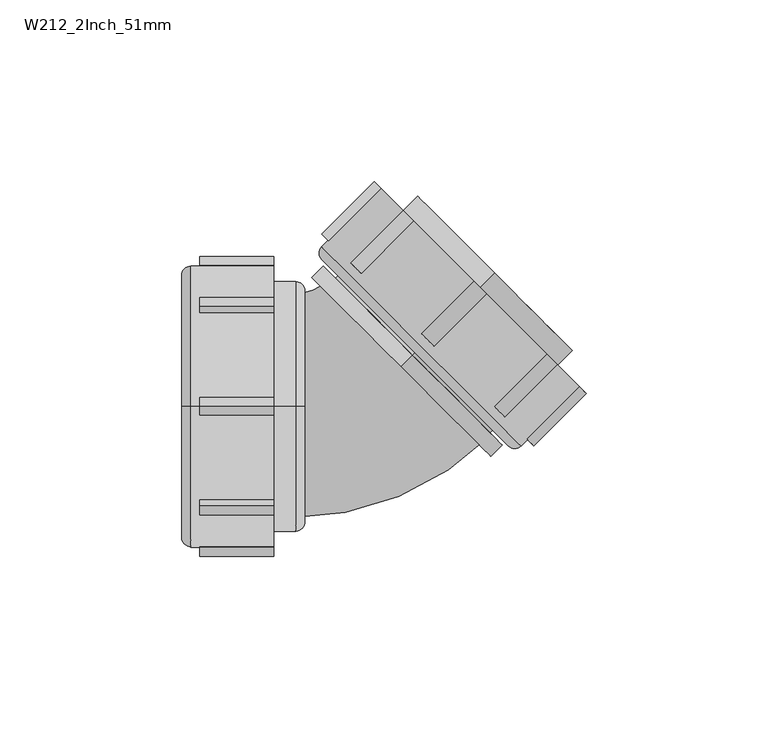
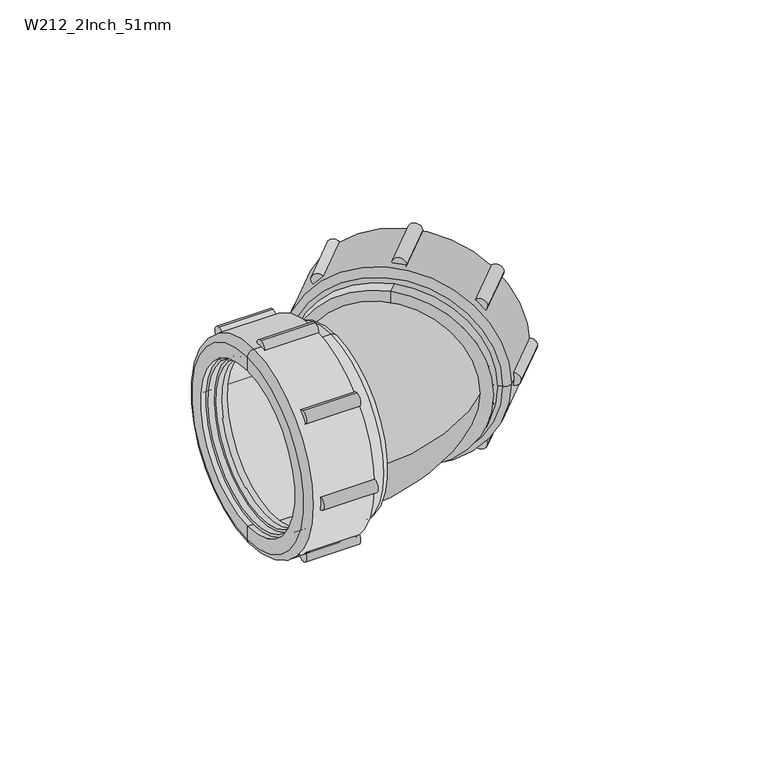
"""IFC4 building model written with IfcOpenShell, lengths in millimetres: pipe fitting geometry, Durapipe_PipeFitting_VulcatheneMechanical_135LooseNutSweepBend_W21 : W212_2Inch_51mm."""

from ifc_helpers import new_model, si_unit, point, frame, frame_2d, origin, place, context, project, spatial, polyline, circle_curve, ellipse_curve, trimmed, segment, composite_curve, outline, extrude, source, transform, mapped, element, save
from ifc_brep_helpers import plane_surface, cylinder_surface, revolved_surface, advanced_brep


def w212_2inch_51mm_e95d25a4(model_context):
    return source(origin(), model_context, "Body", "SolidModel", [
        advanced_brep(
        [(1.3487007, 33.6487007, 22.839549), (2.4487007, 32.5487007, 21.2839141), (32.5487007, 2.4487007, -21.2839141), (33.6487007, 1.3487007, -22.839549), (5.6584987, 37.2584987, 22.3445743), (37.2584987, 5.6584987, -22.3445743), (6.9484482, 37.9484482, 21.9203102), (5.9584987, 36.9584987, 21.9203102), (36.9584987, 5.9584987, -21.9203102), (37.9484482, 6.9484482, -21.9203102), (37.2484482, 7.6484482, -20.9303607), (7.6484482, 37.2484482, 20.9303607), (35.6221026, 6.0221026, -20.9303607), (6.0221026, 35.6221026, 20.9303607), (35.4221026, 6.2221026, -20.647518), (6.2221026, 35.4221026, 20.647518), (4.2164677, 34.3164677, 21.2839141), (4.6664677, 33.8664677, 20.647518), (33.8664677, 4.6664677, -20.647518), (34.3164677, 4.2164677, -21.2839141)],
        [
            (0, 1),
            (1, 2, circle_curve(frame((17.4987007, 17.4987007, 0.0), z_axis=(0.7071067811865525, 0.7071067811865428, 0.0), x_axis=(0.4999999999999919, -0.5000000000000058, -0.7071067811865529)), 30.1)),
            (2, 3),
            (3, 0, circle_curve(frame((17.4987007, 17.4987007, 0.0), z_axis=(-0.7071067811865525, -0.7071067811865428, 0.0), x_axis=(0.4999999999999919, -0.5000000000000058, -0.7071067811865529)), 32.3)),
            (2, 1, circle_curve(frame((17.4987007, 17.4987007, 0.0), z_axis=(0.7071067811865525, 0.7071067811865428, 0.0), x_axis=(0.4999999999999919, -0.5000000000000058, -0.7071067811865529)), 30.1)),
            (0, 3, circle_curve(frame((17.4987007, 17.4987007, 0.0), z_axis=(-0.7071067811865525, -0.7071067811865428, 0.0), x_axis=(0.4999999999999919, -0.5000000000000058, -0.7071067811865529)), 32.3)),
            (4, 0),
            (3, 5),
            (5, 4, circle_curve(frame((21.4584987, 21.4584987, 0.0), z_axis=(-0.7071067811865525, -0.7071067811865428, 0.0), x_axis=(0.4999999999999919, -0.5000000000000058, -0.7071067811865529)), 31.6)),
            (4, 5, circle_curve(frame((21.4584987, 21.4584987, 0.0), z_axis=(-0.7071067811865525, -0.7071067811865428, 0.0), x_axis=(0.4999999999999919, -0.5000000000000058, -0.7071067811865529)), 31.6)),
            (6, 7),
            (7, 8, circle_curve(frame((21.4584987, 21.4584987, 0.0), z_axis=(0.7071067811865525, 0.7071067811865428, 0.0), x_axis=(0.4999999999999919, -0.5000000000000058, -0.7071067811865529)), 31.0)),
            (8, 9),
            (9, 6, circle_curve(frame((22.4484482, 22.4484482, 0.0), z_axis=(-0.7071067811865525, -0.7071067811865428, 0.0), x_axis=(0.4999999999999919, -0.5000000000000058, -0.7071067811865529)), 31.0)),
            (8, 7, circle_curve(frame((21.4584987, 21.4584987, 0.0), z_axis=(0.7071067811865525, 0.7071067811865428, 0.0), x_axis=(0.4999999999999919, -0.5000000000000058, -0.7071067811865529)), 31.0)),
            (6, 9, circle_curve(frame((22.4484482, 22.4484482, 0.0), z_axis=(-0.7071067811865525, -0.7071067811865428, 0.0), x_axis=(0.4999999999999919, -0.5000000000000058, -0.7071067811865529)), 31.0)),
            (9, 10),
            (10, 11, circle_curve(frame((22.4484482, 22.4484482, 0.0), z_axis=(-0.7071067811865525, -0.7071067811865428, 0.0), x_axis=(0.4999999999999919, -0.5000000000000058, -0.7071067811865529)), 29.6)),
            (11, 6),
            (11, 10, circle_curve(frame((22.4484482, 22.4484482, 0.0), z_axis=(-0.7071067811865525, -0.7071067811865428, 0.0), x_axis=(0.4999999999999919, -0.5000000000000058, -0.7071067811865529)), 29.6)),
            (10, 12),
            (12, 13, circle_curve(frame((20.8221026, 20.8221026, 0.0), z_axis=(-0.7071067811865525, -0.7071067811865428, 0.0), x_axis=(0.4999999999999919, -0.5000000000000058, -0.7071067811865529)), 29.6)),
            (13, 11),
            (13, 12, circle_curve(frame((20.8221026, 20.8221026, 0.0), z_axis=(-0.7071067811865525, -0.7071067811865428, 0.0), x_axis=(0.4999999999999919, -0.5000000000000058, -0.7071067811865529)), 29.6)),
            (12, 14),
            (14, 15, circle_curve(frame((20.8221026, 20.8221026, 0.0), z_axis=(-0.7071067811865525, -0.7071067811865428, 0.0), x_axis=(0.4999999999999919, -0.5000000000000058, -0.7071067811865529)), 29.2)),
            (15, 13),
            (15, 14, circle_curve(frame((20.8221026, 20.8221026, 0.0), z_axis=(-0.7071067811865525, -0.7071067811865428, 0.0), x_axis=(0.4999999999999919, -0.5000000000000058, -0.7071067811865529)), 29.2)),
            (16, 17),
            (17, 18, circle_curve(frame((19.2664677, 19.2664677, 0.0), z_axis=(0.7071067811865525, 0.7071067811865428, 0.0), x_axis=(0.4999999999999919, -0.5000000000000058, -0.7071067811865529)), 29.2)),
            (18, 19),
            (19, 16, circle_curve(frame((19.2664677, 19.2664677, 0.0), z_axis=(-0.7071067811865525, -0.7071067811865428, 0.0), x_axis=(0.4999999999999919, -0.5000000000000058, -0.7071067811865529)), 30.1)),
            (18, 17, circle_curve(frame((19.2664677, 19.2664677, 0.0), z_axis=(0.7071067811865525, 0.7071067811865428, 0.0), x_axis=(0.4999999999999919, -0.5000000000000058, -0.7071067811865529)), 29.2)),
            (16, 19, circle_curve(frame((19.2664677, 19.2664677, 0.0), z_axis=(-0.7071067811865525, -0.7071067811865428, 0.0), x_axis=(0.4999999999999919, -0.5000000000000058, -0.7071067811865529)), 30.1)),
            (1, 16),
            (19, 2),
            (14, 18),
            (17, 15),
            (5, 8),
            (7, 4),
        ],
        [
            plane_surface(frame((17.4987007, 17.4987007, 0.0), z_axis=(-0.7071067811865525, -0.7071067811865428, 0.0), x_axis=(0.4999999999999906, -0.5000000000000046, -0.7071067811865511))),
            revolved_surface(polyline([(33.6487007, 1.3487007, -22.839549), (37.2584987, 5.6584987, -22.3445743)]), (13.9631668, 13.9631668, 0.0), (0.7071067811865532, 0.7071067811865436, 0.0)),
            cylinder_surface(frame((23.9126229, 23.9126229, 0.0), z_axis=(0.7071067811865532, 0.7071067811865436, 0.0), x_axis=(0.4999999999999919, -0.5000000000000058, -0.7071067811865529)), 31.0),
            plane_surface(frame((22.4484482, 22.4484482, 0.0), z_axis=(0.7071067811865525, 0.7071067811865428, 0.0), x_axis=(0.4999999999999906, -0.5000000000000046, -0.7071067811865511))),
            revolved_surface(polyline([(37.248448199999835, 7.64844819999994, -20.930360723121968), (35.62210259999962, 6.022102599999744, -20.930360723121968)]), (24.9183658, 24.9183658, 0.0), (0.7071067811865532, 0.7071067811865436, 0.0)),
            plane_surface(frame((20.8221026, 20.8221026, 0.0), z_axis=(0.7071067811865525, 0.7071067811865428, 0.0), x_axis=(0.4999999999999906, -0.5000000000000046, -0.7071067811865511))),
            plane_surface(frame((19.2664677, 19.2664677, 0.0), z_axis=(-0.7071067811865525, -0.7071067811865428, 0.0), x_axis=(0.4999999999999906, -0.5000000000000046, -0.7071067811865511))),
            revolved_surface(polyline([(34.31646769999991, 4.216467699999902, -21.283914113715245), (32.548700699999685, 2.448700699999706, -21.283914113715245)]), (13.9631668, 13.9631668, 0.0), (0.7071067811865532, 0.7071067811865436, 0.0)),
            revolved_surface(polyline([(35.4221025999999, 6.222102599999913, -20.647518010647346), (33.86646769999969, 4.666467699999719, -20.647518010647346)]), (16.3912354, 16.3912354, 0.0), (0.7071067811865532, 0.7071067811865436, 0.0)),
            plane_surface(frame((21.4584987, 21.4584987, 0.0), z_axis=(0.7071067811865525, 0.7071067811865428, 0.0), x_axis=(0.4999999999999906, -0.5000000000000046, -0.7071067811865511))),
        ],
        [
            (0, [[1, 2, 3, 4]]),
            (0, [[5, -1, 6, -3]]),
            (1, [[7, -4, 8, 9]]),
            (1, [[-8, -6, -7, 10]]),
            (2, [[11, 12, 13, 14]]),
            (2, [[15, -11, 16, -13]]),
            (3, [[17, 18, 19, -14]]),
            (3, [[-19, 20, -17, -16]]),
            (4, [[-18, 21, 22, 23]]),
            (4, [[24, -21, -20, -23]]),
            (5, [[25, 26, 27, -22]]),
            (5, [[-27, 28, -25, -24]]),
            (6, [[29, 30, 31, 32]]),
            (6, [[-31, 33, -29, 34]]),
            (7, [[35, -32, 36, -2]]),
            (7, [[-36, -34, -35, -5]]),
            (8, [[-26, 37, -30, 38]]),
            (8, [[-33, -37, -28, -38]]),
            (9, [[39, -12, 40, -9]]),
            (9, [[-40, -15, -39, -10]]),
        ],
    ),
        advanced_brep(
        [(5.2657534, 60.1372396, 0.0), (-10.9269919, 43.9444943, 0.0), (43.9444943, -10.9269919, 0.0), (60.1372396, 5.2657534, 0.0), (9.3669727, 56.0360203, 0.0), (56.0360203, 9.3669727, 0.0), (-10.9269919, 40.4089604, 0.0), (-7.1793259, 36.6612945, 0.0), (36.6612945, -7.1793259, 0.0), (40.4089604, -10.9269919, 0.0), (-5.8358231, 40.8332245, 0.0), (40.8332245, -5.8358231, 0.0), (-4.4216095, 39.4190109, 0.0), (39.4190109, -4.4216095, 0.0)],
        [
            (0, 1),
            (1, 2, circle_curve(frame((16.5087512, 16.5087512, 0.0), z_axis=(0.7071067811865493, 0.7071067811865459, 0.0), x_axis=(0.7071067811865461, -0.7071067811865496, 0.0)), 38.8)),
            (2, 3),
            (3, 0, circle_curve(frame((32.7014965, 32.7014965, 0.0), z_axis=(-0.7071067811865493, -0.7071067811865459, 0.0), x_axis=(0.7071067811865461, -0.7071067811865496, 0.0)), 38.8)),
            (2, 1, circle_curve(frame((16.5087512, 16.5087512, 0.0), z_axis=(0.7071067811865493, 0.7071067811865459, 0.0), x_axis=(0.7071067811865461, -0.7071067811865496, 0.0)), 38.8)),
            (0, 3, circle_curve(frame((32.7014965, 32.7014965, 0.0), z_axis=(-0.7071067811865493, -0.7071067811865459, 0.0), x_axis=(0.7071067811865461, -0.7071067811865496, 0.0)), 38.8)),
            (4, 0),
            (3, 5),
            (5, 4, circle_curve(frame((32.7014965, 32.7014965, 0.0), z_axis=(-0.7071067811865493, -0.7071067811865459, 0.0), x_axis=(0.7071067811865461, -0.7071067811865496, 0.0)), 33.0)),
            (4, 5, circle_curve(frame((32.7014965, 32.7014965, 0.0), z_axis=(-0.7071067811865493, -0.7071067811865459, 0.0), x_axis=(0.7071067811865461, -0.7071067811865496, 0.0)), 33.0)),
            (6, 7),
            (7, 8, circle_curve(frame((14.7409843, 14.7409843, 0.0), z_axis=(0.7071067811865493, 0.7071067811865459, 0.0), x_axis=(0.7071067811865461, -0.7071067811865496, 0.0)), 31.0)),
            (8, 9),
            (9, 6, circle_curve(frame((14.7409843, 14.7409843, 0.0), z_axis=(-0.7071067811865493, -0.7071067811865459, 0.0), x_axis=(0.7071067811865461, -0.7071067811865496, 0.0)), 36.3)),
            (8, 7, circle_curve(frame((14.7409843, 14.7409843, 0.0), z_axis=(0.7071067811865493, 0.7071067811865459, 0.0), x_axis=(0.7071067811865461, -0.7071067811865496, 0.0)), 31.0)),
            (6, 9, circle_curve(frame((14.7409843, 14.7409843, 0.0), z_axis=(-0.7071067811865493, -0.7071067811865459, 0.0), x_axis=(0.7071067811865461, -0.7071067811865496, 0.0)), 36.3)),
            (1, 6, circle_curve(frame((-9.1592249, 42.1767274, 0.0), z_axis=(0.0, 0.0, 1.0000000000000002), x_axis=(-0.7071067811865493, -0.7071067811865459, 0.0)), 2.5)),
            (9, 2, circle_curve(frame((42.1767274, -9.1592249, 0.0), z_axis=(0.0, 0.0, 1.0000000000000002), x_axis=(-0.7071067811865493, -0.7071067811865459, 0.0)), 2.5)),
            (10, 4),
            (5, 11),
            (11, 10, circle_curve(frame((17.4987007, 17.4987007, 0.0), z_axis=(-0.7071067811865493, -0.7071067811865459, 0.0), x_axis=(0.7071067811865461, -0.7071067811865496, 0.0)), 33.0)),
            (10, 11, circle_curve(frame((17.4987007, 17.4987007, 0.0), z_axis=(-0.7071067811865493, -0.7071067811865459, 0.0), x_axis=(0.7071067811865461, -0.7071067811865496, 0.0)), 33.0)),
            (12, 10),
            (11, 13),
            (13, 12, circle_curve(frame((17.4987007, 17.4987007, 0.0), z_axis=(-0.7071067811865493, -0.7071067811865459, 0.0), x_axis=(0.7071067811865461, -0.7071067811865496, 0.0)), 31.0)),
            (12, 13, circle_curve(frame((17.4987007, 17.4987007, 0.0), z_axis=(-0.7071067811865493, -0.7071067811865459, 0.0), x_axis=(0.7071067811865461, -0.7071067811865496, 0.0)), 31.0)),
            (7, 12),
            (13, 8),
        ],
        [
            cylinder_surface(frame((-1088.9125656, -1088.9125656, 0.0), z_axis=(0.7071067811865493, 0.7071067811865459, 0.0), x_axis=(0.7071067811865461, -0.7071067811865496, 0.0)), 38.8),
            plane_surface(frame((32.7014965, 32.7014965, 0.0), z_axis=(0.7071067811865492, 0.7071067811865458, 0.0), x_axis=(0.7071067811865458, -0.7071067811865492, 0.0))),
            plane_surface(frame((14.7409843, 14.7409843, 0.0), z_axis=(-0.7071067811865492, -0.7071067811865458, 0.0), x_axis=(0.7071067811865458, -0.7071067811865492, 0.0))),
            revolved_surface(trimmed(ellipse_curve(frame((42.1767274, -9.1592249, 0.0), z_axis=(0.0, 0.0, 1.0000000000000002), x_axis=(-0.7071067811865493, -0.7071067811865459, 0.0)), 2.5, 2.5), [point((40.4089604, -10.9269919, 0.0))], [point((43.9444943, -10.9269919, 0.0))], True, "CARTESIAN"), (-1088.9125656, -1088.9125656, 0.0), (0.7071067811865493, 0.7071067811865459, 0.0)),
            revolved_surface(polyline([(56.036020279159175, 9.366972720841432, 0.0), (40.833224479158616, -5.835823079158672, 0.0)]), (-1088.9125656, -1088.9125656, 0.0), (0.7071067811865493, 0.7071067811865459, 0.0)),
            plane_surface(frame((17.4987007, 17.4987007, 0.0), z_axis=(0.7071067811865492, 0.7071067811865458, 0.0), x_axis=(0.7071067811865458, -0.7071067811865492, 0.0))),
            revolved_surface(polyline([(39.41901091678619, -4.421609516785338, 0.0), (36.66129451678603, -7.179325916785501, 0.0)]), (-1088.9125656, -1088.9125656, 0.0), (0.7071067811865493, 0.7071067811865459, 0.0)),
        ],
        [
            (0, [[1, 2, 3, 4]]),
            (0, [[-3, 5, -1, 6]]),
            (1, [[7, -4, 8, 9]]),
            (1, [[-8, -6, -7, 10]]),
            (2, [[11, 12, 13, 14]]),
            (2, [[-13, 15, -11, 16]]),
            (3, [[17, -14, 18, -2]]),
            (3, [[-18, -16, -17, -5]]),
            (4, [[19, -9, 20, 21]]),
            (4, [[-20, -10, -19, 22]]),
            (5, [[23, -21, 24, 25]]),
            (5, [[-24, -22, -23, 26]]),
            (6, [[27, -25, 28, -12]]),
            (6, [[-28, -26, -27, -15]]),
        ],
    ),
        extrude(outline(composite_curve([segment(trimmed(circle_curve(frame_2d((0.0, 2.5)), 2.5), [point((0.0, 5.0))], [point((0.0, 0.0))], False, "CARTESIAN"), True, "CONTINUOUS"), segment(trimmed(circle_curve(frame_2d((0.0, 2.5)), 2.5), [point((0.0, 0.0))], [point((0.0, 5.0))], False, "CARTESIAN"), True, "CONTINUOUS")], self_intersect=False)), frame((20.0442851, 16.5087512, -38.8), z_axis=(0.7071067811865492, 0.7071067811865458, 0.0), x_axis=(0.0, 0.0, -1.0)), (0.0, 0.0, 1.0), 20.4),
        extrude(outline(composite_curve([segment(trimmed(circle_curve(frame_2d((-11.3642569, -24.9357431)), 2.5), [point((-11.3642569, -22.4357431))], [point((-11.3642569, -27.4357431))], False, "CARTESIAN"), True, "CONTINUOUS"), segment(trimmed(circle_curve(frame_2d((-11.3642569, -24.9357431)), 2.5), [point((-11.3642569, -27.4357431))], [point((-11.3642569, -22.4357431))], False, "CARTESIAN"), True, "CONTINUOUS")], self_intersect=False)), frame((20.0442851, 16.5087512, -38.8), z_axis=(0.7071067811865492, 0.7071067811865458, 0.0), x_axis=(0.0, 0.0, -1.0)), (0.0, 0.0, 1.0), 20.4),
        extrude(outline(composite_curve([segment(trimmed(circle_curve(frame_2d((-38.8, -36.3)), 2.5), [point((-38.8, -33.8))], [point((-38.8, -38.8))], False, "CARTESIAN"), True, "CONTINUOUS"), segment(trimmed(circle_curve(frame_2d((-38.8, -36.3)), 2.5), [point((-38.8, -38.8))], [point((-38.8, -33.8))], False, "CARTESIAN"), True, "CONTINUOUS")], self_intersect=False)), frame((20.0442851, 16.5087512, -38.8), z_axis=(0.7071067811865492, 0.7071067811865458, 0.0), x_axis=(0.0, 0.0, -1.0)), (0.0, 0.0, 1.0), 20.4),
        extrude(outline(composite_curve([segment(trimmed(circle_curve(frame_2d((-66.2357431, -24.9357431)), 2.5), [point((-66.2357431, -22.4357431))], [point((-66.2357431, -27.4357431))], False, "CARTESIAN"), True, "CONTINUOUS"), segment(trimmed(circle_curve(frame_2d((-66.2357431, -24.9357431)), 2.5), [point((-66.2357431, -27.4357431))], [point((-66.2357431, -22.4357431))], False, "CARTESIAN"), True, "CONTINUOUS")], self_intersect=False)), frame((20.0442851, 16.5087512, -38.8), z_axis=(0.7071067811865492, 0.7071067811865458, 0.0), x_axis=(0.0, 0.0, -1.0)), (0.0, 0.0, 1.0), 20.4),
        extrude(outline(composite_curve([segment(trimmed(circle_curve(frame_2d((-77.6, 2.5)), 2.5), [point((-77.6, 5.0))], [point((-77.6, 0.0))], False, "CARTESIAN"), True, "CONTINUOUS"), segment(trimmed(circle_curve(frame_2d((-77.6, 2.5)), 2.5), [point((-77.6, 0.0))], [point((-77.6, 5.0))], False, "CARTESIAN"), True, "CONTINUOUS")], self_intersect=False)), frame((20.0442851, 16.5087512, -38.8), z_axis=(0.7071067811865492, 0.7071067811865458, 0.0), x_axis=(0.0, 0.0, -1.0)), (0.0, 0.0, 1.0), 20.4),
        extrude(outline(composite_curve([segment(trimmed(circle_curve(frame_2d((-66.2357431, 29.9357431)), 2.5), [point((-66.2357431, 32.4357431))], [point((-66.2357431, 27.4357431))], False, "CARTESIAN"), True, "CONTINUOUS"), segment(trimmed(circle_curve(frame_2d((-66.2357431, 29.9357431)), 2.5), [point((-66.2357431, 27.4357431))], [point((-66.2357431, 32.4357431))], False, "CARTESIAN"), True, "CONTINUOUS")], self_intersect=False)), frame((20.0442851, 16.5087512, -38.8), z_axis=(0.7071067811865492, 0.7071067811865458, 0.0), x_axis=(0.0, 0.0, -1.0)), (0.0, 0.0, 1.0), 20.4),
        extrude(outline(composite_curve([segment(trimmed(circle_curve(frame_2d((-38.8, 41.3)), 2.5), [point((-38.8, 43.8))], [point((-38.8, 38.8))], False, "CARTESIAN"), True, "CONTINUOUS"), segment(trimmed(circle_curve(frame_2d((-38.8, 41.3)), 2.5), [point((-38.8, 38.8))], [point((-38.8, 43.8))], False, "CARTESIAN"), True, "CONTINUOUS")], self_intersect=False)), frame((20.0442851, 16.5087512, -38.8), z_axis=(0.7071067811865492, 0.7071067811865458, 0.0), x_axis=(0.0, 0.0, -1.0)), (0.0, 0.0, 1.0), 20.4),
        extrude(outline(composite_curve([segment(trimmed(circle_curve(frame_2d((-11.3642569, 29.9357431)), 2.5), [point((-11.3642569, 32.4357431))], [point((-11.3642569, 27.4357431))], False, "CARTESIAN"), True, "CONTINUOUS"), segment(trimmed(circle_curve(frame_2d((-11.3642569, 29.9357431)), 2.5), [point((-11.3642569, 27.4357431))], [point((-11.3642569, 32.4357431))], False, "CARTESIAN"), True, "CONTINUOUS")], self_intersect=False)), frame((20.0442851, 16.5087512, -38.8), z_axis=(0.7071067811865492, 0.7071067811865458, 0.0), x_axis=(0.0, 0.0, -1.0)), (0.0, 0.0, 1.0), 20.4),
        advanced_brep(
        [(36.6612945, 36.6612945, 30.15), (36.6612945, 36.6612945, -30.15), (36.6612945, 36.6612945, -26.2), (36.6612945, 36.6612945, 26.2), (14.0338775, 14.0338775, 30.15), (14.0338775, 14.0338775, -30.15), (14.0338775, 14.0338775, 34.9), (14.0338775, 14.0338775, -34.9), (10.9226077, 10.9226077, 34.9), (10.9226077, 10.9226077, -34.9), (10.9226077, 10.9226077, 26.2), (10.9226077, 10.9226077, -26.2)],
        [
            (0, 1, circle_curve(frame((36.6612945, 36.6612945, 0.0), z_axis=(0.7071067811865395, 0.7071067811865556, 0.0), x_axis=(0.0, 0.0, -1.0)), 30.15)),
            (1, 2),
            (2, 3, circle_curve(frame((36.6612945, 36.6612945, 0.0), z_axis=(-0.7071067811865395, -0.7071067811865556, 0.0), x_axis=(0.0, 0.0, -1.0)), 26.2)),
            (3, 0),
            (1, 0, circle_curve(frame((36.6612945, 36.6612945, 0.0), z_axis=(0.7071067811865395, 0.7071067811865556, 0.0), x_axis=(0.0, 0.0, -1.0)), 30.15)),
            (3, 2, circle_curve(frame((36.6612945, 36.6612945, 0.0), z_axis=(-0.7071067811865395, -0.7071067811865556, 0.0), x_axis=(0.0, 0.0, -1.0)), 26.2)),
            (4, 5, circle_curve(frame((14.0338775, 14.0338775, 0.0), z_axis=(0.7071067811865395, 0.7071067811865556, 0.0), x_axis=(0.0, 0.0, -1.0)), 30.15)),
            (5, 1),
            (0, 4),
            (5, 4, circle_curve(frame((14.0338775, 14.0338775, 0.0), z_axis=(0.7071067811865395, 0.7071067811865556, 0.0), x_axis=(0.0, 0.0, -1.0)), 30.15)),
            (6, 7, circle_curve(frame((14.0338775, 14.0338775, 0.0), z_axis=(0.7071067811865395, 0.7071067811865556, 0.0), x_axis=(0.0, 0.0, -1.0)), 34.9)),
            (7, 5),
            (4, 6),
            (7, 6, circle_curve(frame((14.0338775, 14.0338775, 0.0), z_axis=(0.7071067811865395, 0.7071067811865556, 0.0), x_axis=(0.0, 0.0, -1.0)), 34.9)),
            (8, 9, circle_curve(frame((10.9226077, 10.9226077, 0.0), z_axis=(0.7071067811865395, 0.7071067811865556, 0.0), x_axis=(0.0, 0.0, -1.0)), 34.9)),
            (9, 7),
            (6, 8),
            (9, 8, circle_curve(frame((10.9226077, 10.9226077, 0.0), z_axis=(0.7071067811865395, 0.7071067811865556, 0.0), x_axis=(0.0, 0.0, -1.0)), 34.9)),
            (10, 11, circle_curve(frame((10.9226077, 10.9226077, 0.0), z_axis=(0.7071067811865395, 0.7071067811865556, 0.0), x_axis=(0.0, 0.0, -1.0)), 26.2)),
            (11, 9),
            (8, 10),
            (11, 10, circle_curve(frame((10.9226077, 10.9226077, 0.0), z_axis=(0.7071067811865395, 0.7071067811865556, 0.0), x_axis=(0.0, 0.0, -1.0)), 26.2)),
            (2, 11),
            (10, 3),
        ],
        [
            plane_surface(frame((36.6612945, 36.6612945, 0.0), z_axis=(0.7071067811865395, 0.7071067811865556, 0.0), x_axis=(0.0, 0.0, -1.0))),
            cylinder_surface(frame((43.7323623, 43.7323623, 0.0), z_axis=(-0.7071067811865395, -0.7071067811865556, 0.0), x_axis=(0.0, 0.0, -1.0)), 30.15),
            plane_surface(frame((14.0338775, 14.0338775, 0.0), z_axis=(0.7071067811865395, 0.7071067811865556, 0.0), x_axis=(0.0, 0.0, -1.0))),
            cylinder_surface(frame((43.7323623, 43.7323623, 0.0), z_axis=(-0.7071067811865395, -0.7071067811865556, 0.0), x_axis=(0.0, 0.0, -1.0)), 34.9),
            plane_surface(frame((10.9226077, 10.9226077, 0.0), z_axis=(-0.7071067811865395, -0.7071067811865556, 0.0), x_axis=(0.0, 0.0, -1.0))),
            revolved_surface(polyline([(10.922607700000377, 10.92260769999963, -26.2), (36.661294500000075, 36.66129449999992, -26.2)]), (43.7323623, 43.7323623, 0.0), (-0.7071067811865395, -0.7071067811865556, 0.0)),
        ],
        [
            (0, [[1, 2, 3, 4]]),
            (0, [[5, -4, 6, -2]]),
            (1, [[7, 8, -1, 9]]),
            (1, [[10, -9, -5, -8]]),
            (2, [[11, 12, -7, 13]]),
            (2, [[14, -13, -10, -12]]),
            (3, [[15, 16, -11, 17]]),
            (3, [[18, -17, -14, -16]]),
            (4, [[19, 20, -15, 21]]),
            (4, [[22, -21, -18, -20]]),
            (5, [[-3, 23, -19, 24]]),
            (5, [[-6, -24, -22, -23]]),
        ],
    ),
        advanced_brep(
        [(-47.182251, -22.839549, -22.839549), (-47.182251, 22.839549, 22.839549), (-47.182251, 21.2839141, 21.2839141), (-47.182251, -21.2839141, -21.2839141), (-41.582251, -22.3445743, -22.3445743), (-41.582251, 22.3445743, 22.3445743), (-40.182251, -21.9203102, -21.9203102), (-40.182251, 21.9203102, 21.9203102), (-41.582251, 21.9203102, 21.9203102), (-41.582251, -21.9203102, -21.9203102), (-40.182251, -20.9303607, -20.9303607), (-40.182251, 20.9303607, 20.9303607), (-42.482251, -20.9303607, -20.9303607), (-42.482251, 20.9303607, 20.9303607), (-42.482251, -20.647518, -20.647518), (-42.482251, 20.647518, 20.647518), (-44.682251, -21.2839141, -21.2839141), (-44.682251, 21.2839141, 21.2839141), (-44.682251, 20.647518, 20.647518), (-44.682251, -20.647518, -20.647518)],
        [
            (0, 1, circle_curve(frame((-47.182251, 0.0, 0.0), z_axis=(-1.0, 0.0, 0.0), x_axis=(0.0, 0.7071067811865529, 0.7071067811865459)), 32.3)),
            (1, 2),
            (2, 3, circle_curve(frame((-47.182251, 0.0, 0.0), z_axis=(1.0, 0.0, 0.0), x_axis=(0.0, 0.7071067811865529, 0.7071067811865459)), 30.1)),
            (3, 0),
            (1, 0, circle_curve(frame((-47.182251, 0.0, 0.0), z_axis=(-1.0, 0.0, 0.0), x_axis=(0.0, 0.7071067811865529, 0.7071067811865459)), 32.3)),
            (3, 2, circle_curve(frame((-47.182251, 0.0, 0.0), z_axis=(1.0, 0.0, 0.0), x_axis=(0.0, 0.7071067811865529, 0.7071067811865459)), 30.1)),
            (4, 5, circle_curve(frame((-41.582251, 0.0, 0.0), z_axis=(-1.0, 0.0, 0.0), x_axis=(0.0, 0.7071067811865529, 0.7071067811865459)), 31.6)),
            (5, 1),
            (0, 4),
            (5, 4, circle_curve(frame((-41.582251, 0.0, 0.0), z_axis=(-1.0, 0.0, 0.0), x_axis=(0.0, 0.7071067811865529, 0.7071067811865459)), 31.6)),
            (6, 7, circle_curve(frame((-40.182251, 0.0, 0.0), z_axis=(-1.0, 0.0, 0.0), x_axis=(0.0, 0.7071067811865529, 0.7071067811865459)), 31.0)),
            (7, 8),
            (8, 9, circle_curve(frame((-41.582251, 0.0, 0.0), z_axis=(1.0, 0.0, 0.0), x_axis=(0.0, 0.7071067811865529, 0.7071067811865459)), 31.0)),
            (9, 6),
            (7, 6, circle_curve(frame((-40.182251, 0.0, 0.0), z_axis=(-1.0, 0.0, 0.0), x_axis=(0.0, 0.7071067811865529, 0.7071067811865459)), 31.0)),
            (9, 8, circle_curve(frame((-41.582251, 0.0, 0.0), z_axis=(1.0, 0.0, 0.0), x_axis=(0.0, 0.7071067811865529, 0.7071067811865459)), 31.0)),
            (6, 10),
            (10, 11, circle_curve(frame((-40.182251, 0.0, 0.0), z_axis=(-1.0, 0.0, 0.0), x_axis=(0.0, 0.7071067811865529, 0.7071067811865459)), 29.6)),
            (11, 7),
            (11, 10, circle_curve(frame((-40.182251, 0.0, 0.0), z_axis=(-1.0, 0.0, 0.0), x_axis=(0.0, 0.7071067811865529, 0.7071067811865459)), 29.6)),
            (10, 12),
            (12, 13, circle_curve(frame((-42.482251, 0.0, 0.0), z_axis=(-1.0, 0.0, 0.0), x_axis=(0.0, 0.7071067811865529, 0.7071067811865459)), 29.6)),
            (13, 11),
            (13, 12, circle_curve(frame((-42.482251, 0.0, 0.0), z_axis=(-1.0, 0.0, 0.0), x_axis=(0.0, 0.7071067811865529, 0.7071067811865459)), 29.6)),
            (12, 14),
            (14, 15, circle_curve(frame((-42.482251, 0.0, 0.0), z_axis=(-1.0, 0.0, 0.0), x_axis=(0.0, 0.7071067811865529, 0.7071067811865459)), 29.2)),
            (15, 13),
            (15, 14, circle_curve(frame((-42.482251, 0.0, 0.0), z_axis=(-1.0, 0.0, 0.0), x_axis=(0.0, 0.7071067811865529, 0.7071067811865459)), 29.2)),
            (16, 17, circle_curve(frame((-44.682251, 0.0, 0.0), z_axis=(-1.0, 0.0, 0.0), x_axis=(0.0, 0.7071067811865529, 0.7071067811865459)), 30.1)),
            (17, 18),
            (18, 19, circle_curve(frame((-44.682251, 0.0, 0.0), z_axis=(1.0, 0.0, 0.0), x_axis=(0.0, 0.7071067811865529, 0.7071067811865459)), 29.2)),
            (19, 16),
            (17, 16, circle_curve(frame((-44.682251, 0.0, 0.0), z_axis=(-1.0, 0.0, 0.0), x_axis=(0.0, 0.7071067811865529, 0.7071067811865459)), 30.1)),
            (19, 18, circle_curve(frame((-44.682251, 0.0, 0.0), z_axis=(1.0, 0.0, 0.0), x_axis=(0.0, 0.7071067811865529, 0.7071067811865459)), 29.2)),
            (2, 17),
            (16, 3),
            (14, 19),
            (18, 15),
            (4, 9),
            (8, 5),
        ],
        [
            plane_surface(frame((-47.182251, 0.0, 0.0), z_axis=(-1.0, 0.0, 0.0), x_axis=(0.0, 0.707106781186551, 0.707106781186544))),
            revolved_surface(polyline([(-47.182251, 22.839549, 22.839549), (-41.582251, 22.3445743, 22.3445743)]), (-52.182251, 0.0, 0.0), (1.0000000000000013, 0.0, 0.0)),
            cylinder_surface(frame((-38.1115953, 0.0, 0.0), z_axis=(1.0000000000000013, 0.0, 0.0), x_axis=(0.0, 0.7071067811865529, 0.7071067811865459)), 31.0),
            plane_surface(frame((-40.182251, 0.0, 0.0), z_axis=(1.0, 0.0, 0.0), x_axis=(0.0, 0.707106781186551, 0.707106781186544))),
            revolved_surface(polyline([(-40.18225100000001, 20.930360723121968, 20.93036072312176), (-42.48225100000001, 20.930360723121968, 20.93036072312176)]), (-36.68926, 0.0, 0.0), (1.0000000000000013, 0.0, 0.0)),
            plane_surface(frame((-42.482251, 0.0, 0.0), z_axis=(1.0, 0.0, 0.0), x_axis=(0.0, 0.707106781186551, 0.707106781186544))),
            plane_surface(frame((-44.682251, 0.0, 0.0), z_axis=(-1.0, 0.0, 0.0), x_axis=(0.0, 0.707106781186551, 0.707106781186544))),
            revolved_surface(polyline([(-44.68225099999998, 21.283914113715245, 21.28391411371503), (-47.18225099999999, 21.283914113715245, 21.28391411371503)]), (-52.182251, 0.0, 0.0), (1.0000000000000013, 0.0, 0.0)),
            revolved_surface(polyline([(-42.482250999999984, 20.647518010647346, 20.64751801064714), (-44.682250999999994, 20.647518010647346, 20.64751801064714)]), (-48.7484434, 0.0, 0.0), (1.0000000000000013, 0.0, 0.0)),
            plane_surface(frame((-41.582251, 0.0, 0.0), z_axis=(1.0, 0.0, 0.0), x_axis=(0.0, 0.707106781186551, 0.707106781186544))),
        ],
        [
            (0, [[1, 2, 3, 4]]),
            (0, [[-2, 5, -4, 6]]),
            (1, [[7, 8, -1, 9]]),
            (1, [[10, -9, -5, -8]]),
            (2, [[11, 12, 13, 14]]),
            (2, [[-12, 15, -14, 16]]),
            (3, [[-11, 17, 18, 19]]),
            (3, [[-15, -19, 20, -17]]),
            (4, [[21, 22, 23, -18]]),
            (4, [[-21, -20, -23, 24]]),
            (5, [[-22, 25, 26, 27]]),
            (5, [[-24, -27, 28, -25]]),
            (6, [[29, 30, 31, 32]]),
            (6, [[33, -32, 34, -30]]),
            (7, [[-3, 35, -29, 36]]),
            (7, [[-6, -36, -33, -35]]),
            (8, [[37, -31, 38, -26]]),
            (8, [[-37, -28, -38, -34]]),
            (9, [[-7, 39, -13, 40]]),
            (9, [[-10, -40, -16, -39]]),
        ],
    ),
        advanced_brep(
        [(-24.082251, 0.0, -38.8), (-24.082251, 0.0, 38.8), (-46.982251, 0.0, 38.8), (-46.982251, 0.0, -38.8), (-24.082251, 0.0, -34.5), (-24.082251, 0.0, 34.5), (-49.482251, 0.0, -36.3), (-49.482251, 0.0, 36.3), (-49.482251, 0.0, 31.0), (-49.482251, 0.0, -31.0), (-47.182251, 0.0, -33.0), (-47.182251, 0.0, 33.0), (-19.882251, 0.0, 33.0), (-19.882251, 0.0, -33.0), (-47.182251, 0.0, -31.0), (-47.182251, 0.0, 31.0), (-18.082251, 0.0, -34.5), (-18.082251, 0.0, 34.5), (-15.582251, 0.0, -32.0), (-15.582251, 0.0, 32.0), (-15.582251, 0.0, 0.0), (-19.882251, 0.0, 0.0)],
        [
            (0, 1, circle_curve(frame((-24.082251, 0.0, 0.0), z_axis=(-1.0, 0.0, 0.0), x_axis=(0.0, 0.0, 1.0000000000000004)), 38.8)),
            (1, 2),
            (2, 3, circle_curve(frame((-46.982251, 0.0, 0.0), z_axis=(1.0, 0.0, 0.0), x_axis=(0.0, 0.0, 1.0000000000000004)), 38.8)),
            (3, 0),
            (1, 0, circle_curve(frame((-24.082251, 0.0, 0.0), z_axis=(-1.0, 0.0, 0.0), x_axis=(0.0, 0.0, 1.0000000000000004)), 38.8)),
            (3, 2, circle_curve(frame((-46.982251, 0.0, 0.0), z_axis=(1.0, 0.0, 0.0), x_axis=(0.0, 0.0, 1.0000000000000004)), 38.8)),
            (4, 5, circle_curve(frame((-24.082251, 0.0, 0.0), z_axis=(-1.0, 0.0, 0.0), x_axis=(0.0, 0.0, 1.0000000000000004)), 34.5)),
            (5, 1),
            (0, 4),
            (5, 4, circle_curve(frame((-24.082251, 0.0, 0.0), z_axis=(-1.0, 0.0, 0.0), x_axis=(0.0, 0.0, 1.0000000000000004)), 34.5)),
            (6, 7, circle_curve(frame((-49.482251, 0.0, 0.0), z_axis=(-1.0, 0.0, 0.0), x_axis=(0.0, 0.0, 1.0000000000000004)), 36.3)),
            (7, 8),
            (8, 9, circle_curve(frame((-49.482251, 0.0, 0.0), z_axis=(1.0, 0.0, 0.0), x_axis=(0.0, 0.0, 1.0000000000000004)), 31.0)),
            (9, 6),
            (7, 6, circle_curve(frame((-49.482251, 0.0, 0.0), z_axis=(-1.0, 0.0, 0.0), x_axis=(0.0, 0.0, 1.0000000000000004)), 36.3)),
            (9, 8, circle_curve(frame((-49.482251, 0.0, 0.0), z_axis=(1.0, 0.0, 0.0), x_axis=(0.0, 0.0, 1.0000000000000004)), 31.0)),
            (2, 7, circle_curve(frame((-46.982251, 0.0, 36.3), z_axis=(0.0, -1.0000000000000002, 0.0), x_axis=(-1.0000000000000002, 0.0, 0.0)), 2.5)),
            (6, 3, circle_curve(frame((-46.982251, 0.0, -36.3), z_axis=(0.0, -1.0000000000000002, 0.0), x_axis=(-1.0000000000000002, 0.0, 0.0)), 2.5)),
            (10, 11, circle_curve(frame((-47.182251, 0.0, 0.0), z_axis=(-1.0, 0.0, 0.0), x_axis=(0.0, 0.0, 1.0000000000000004)), 33.0)),
            (11, 12),
            (12, 13, circle_curve(frame((-19.882251, 0.0, 0.0), z_axis=(1.0, 0.0, 0.0), x_axis=(0.0, 0.0, 1.0000000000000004)), 33.0)),
            (13, 10),
            (11, 10, circle_curve(frame((-47.182251, 0.0, 0.0), z_axis=(-1.0, 0.0, 0.0), x_axis=(0.0, 0.0, 1.0000000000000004)), 33.0)),
            (13, 12, circle_curve(frame((-19.882251, 0.0, 0.0), z_axis=(1.0, 0.0, 0.0), x_axis=(0.0, 0.0, 1.0000000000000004)), 33.0)),
            (14, 15, circle_curve(frame((-47.182251, 0.0, 0.0), z_axis=(-1.0, 0.0, 0.0), x_axis=(0.0, 0.0, 1.0000000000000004)), 31.0)),
            (15, 11),
            (10, 14),
            (15, 14, circle_curve(frame((-47.182251, 0.0, 0.0), z_axis=(-1.0, 0.0, 0.0), x_axis=(0.0, 0.0, 1.0000000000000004)), 31.0)),
            (8, 15),
            (14, 9),
            (16, 17, circle_curve(frame((-18.082251, 0.0, 0.0), z_axis=(-1.0, 0.0, 0.0), x_axis=(0.0, 0.0, 1.0000000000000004)), 34.5)),
            (17, 5),
            (4, 16),
            (17, 16, circle_curve(frame((-18.082251, 0.0, 0.0), z_axis=(-1.0, 0.0, 0.0), x_axis=(0.0, 0.0, 1.0000000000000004)), 34.5)),
            (18, 19, circle_curve(frame((-15.582251, 0.0, 0.0), z_axis=(-1.0, 0.0, 0.0), x_axis=(0.0, 0.0, 1.0000000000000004)), 32.0)),
            (19, 17, circle_curve(frame((-18.082251, 0.0, 32.0), z_axis=(0.0, -1.0000000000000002, 0.0), x_axis=(-1.0000000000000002, 0.0, 0.0)), 2.5)),
            (16, 18, circle_curve(frame((-18.082251, 0.0, -32.0), z_axis=(0.0, -1.0000000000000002, 0.0), x_axis=(-1.0000000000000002, 0.0, 0.0)), 2.5)),
            (19, 18, circle_curve(frame((-15.582251, 0.0, 0.0), z_axis=(-1.0, 0.0, 0.0), x_axis=(0.0, 0.0, 1.0000000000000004)), 32.0)),
            (20, 19),
            (18, 20),
            (12, 21),
            (21, 13),
        ],
        [
            cylinder_surface(frame((-1610.2840694, 0.0, 0.0), z_axis=(1.0000000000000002, 0.0, 0.0), x_axis=(0.0, 0.0, 1.0000000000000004)), 38.8),
            plane_surface(frame((-24.082251, 0.0, 0.0), z_axis=(1.0, 0.0, 0.0), x_axis=(0.0, 0.0, 1.0))),
            plane_surface(frame((-49.482251, 0.0, 0.0), z_axis=(-1.0, 0.0, 0.0), x_axis=(0.0, 0.0, 1.0))),
            revolved_surface(trimmed(ellipse_curve(frame((-46.982251, 0.0, 36.3), z_axis=(0.0, 1.0000000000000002, 0.0), x_axis=(-1.0000000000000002, 0.0, 0.0)), 2.5, 2.5), [point((-49.482251, 0.0, 36.3))], [point((-46.982251, 0.0, 38.8))], True, "CARTESIAN"), (-1610.2840694, 0.0, 0.0), (1.0000000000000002, 0.0, 0.0)),
            revolved_surface(polyline([(-19.882250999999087, 0.0, 33.000000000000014), (-47.18225099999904, 0.0, 33.000000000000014)]), (-1610.2840694, 0.0, 0.0), (1.0000000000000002, 0.0, 0.0)),
            plane_surface(frame((-47.182251, 0.0, 0.0), z_axis=(1.0, 0.0, 0.0), x_axis=(0.0, 0.0, 1.0))),
            revolved_surface(polyline([(-47.18225099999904, 0.0, 31.000000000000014), (-49.482250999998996, 0.0, 31.000000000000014)]), (-1610.2840694, 0.0, 0.0), (1.0000000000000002, 0.0, 0.0)),
            cylinder_surface(frame((-1610.2840694, 0.0, 0.0), z_axis=(1.0000000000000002, 0.0, 0.0), x_axis=(0.0, 0.0, 1.0000000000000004)), 34.5),
            revolved_surface(trimmed(ellipse_curve(frame((-18.082251, 0.0, 32.0), z_axis=(0.0, 1.0000000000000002, 0.0), x_axis=(-1.0000000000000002, 0.0, 0.0)), 2.5, 2.5), [point((-18.082251, 0.0, 34.5))], [point((-15.582251, 0.0, 32.0))], True, "CARTESIAN"), (-1610.2840694, 0.0, 0.0), (1.0000000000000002, 0.0, 0.0)),
            plane_surface(frame((-15.582251, 0.0, 0.0), z_axis=(1.0, 0.0, 0.0), x_axis=(0.0, 0.0, 1.0))),
            plane_surface(frame((-19.882251, 0.0, 0.0), z_axis=(-1.0, 0.0, 0.0), x_axis=(0.0, 0.0, 1.0))),
        ],
        [
            (0, [[1, 2, 3, 4]]),
            (0, [[5, -4, 6, -2]]),
            (1, [[7, 8, -1, 9]]),
            (1, [[10, -9, -5, -8]]),
            (2, [[11, 12, 13, 14]]),
            (2, [[15, -14, 16, -12]]),
            (3, [[-3, 17, -11, 18]]),
            (3, [[-6, -18, -15, -17]]),
            (4, [[19, 20, 21, 22]]),
            (4, [[23, -22, 24, -20]]),
            (5, [[25, 26, -19, 27]]),
            (5, [[28, -27, -23, -26]]),
            (6, [[-13, 29, -25, 30]]),
            (6, [[-16, -30, -28, -29]]),
            (7, [[31, 32, -7, 33]]),
            (7, [[34, -33, -10, -32]]),
            (8, [[35, 36, -31, 37]]),
            (8, [[38, -37, -34, -36]]),
            (9, [[39, -35, 40]]),
            (9, [[-40, -38, -39]]),
            (10, [[-21, 41, 42]]),
            (10, [[-24, -42, -41]]),
        ],
    ),
        extrude(outline(composite_curve([segment(trimmed(circle_curve(frame_2d((38.8, 0.0)), 2.5), [point((38.8, -2.5))], [point((38.8, 2.5))], False, "CARTESIAN"), True, "CONTINUOUS"), segment(trimmed(circle_curve(frame_2d((38.8, 0.0)), 2.5), [point((38.8, 2.5))], [point((38.8, -2.5))], False, "CARTESIAN"), True, "CONTINUOUS")], self_intersect=False)), frame((-44.482251, 0.0, 0.0), z_axis=(1.0, 0.0, 0.0), x_axis=(0.0, 1.0, 0.0)), (0.0, 0.0, 1.0), 20.4),
        extrude(outline(composite_curve([segment(trimmed(circle_curve(frame_2d((27.4357431, 27.4357431)), 2.5), [point((27.4357431, 24.9357431))], [point((27.4357431, 29.9357431))], False, "CARTESIAN"), True, "CONTINUOUS"), segment(trimmed(circle_curve(frame_2d((27.4357431, 27.4357431)), 2.5), [point((27.4357431, 29.9357431))], [point((27.4357431, 24.9357431))], False, "CARTESIAN"), True, "CONTINUOUS")], self_intersect=False)), frame((-44.482251, 0.0, 0.0), z_axis=(1.0, 0.0, 0.0), x_axis=(0.0, 1.0, 0.0)), (0.0, 0.0, 1.0), 20.4),
        extrude(outline(composite_curve([segment(trimmed(circle_curve(frame_2d((0.0, 38.8)), 2.5), [point((0.0, 36.3))], [point((0.0, 41.3))], False, "CARTESIAN"), True, "CONTINUOUS"), segment(trimmed(circle_curve(frame_2d((0.0, 38.8)), 2.5), [point((0.0, 41.3))], [point((0.0, 36.3))], False, "CARTESIAN"), True, "CONTINUOUS")], self_intersect=False)), frame((-44.482251, 0.0, 0.0), z_axis=(1.0, 0.0, 0.0), x_axis=(0.0, 1.0, 0.0)), (0.0, 0.0, 1.0), 20.4),
        extrude(outline(composite_curve([segment(trimmed(circle_curve(frame_2d((-27.4357431, 27.4357431)), 2.5), [point((-27.4357431, 24.9357431))], [point((-27.4357431, 29.9357431))], False, "CARTESIAN"), True, "CONTINUOUS"), segment(trimmed(circle_curve(frame_2d((-27.4357431, 27.4357431)), 2.5), [point((-27.4357431, 29.9357431))], [point((-27.4357431, 24.9357431))], False, "CARTESIAN"), True, "CONTINUOUS")], self_intersect=False)), frame((-44.482251, 0.0, 0.0), z_axis=(1.0, 0.0, 0.0), x_axis=(0.0, 1.0, 0.0)), (0.0, 0.0, 1.0), 20.4),
        extrude(outline(composite_curve([segment(trimmed(circle_curve(frame_2d((-38.8, 0.0)), 2.5), [point((-38.8, -2.5))], [point((-38.8, 2.5))], False, "CARTESIAN"), True, "CONTINUOUS"), segment(trimmed(circle_curve(frame_2d((-38.8, 0.0)), 2.5), [point((-38.8, 2.5))], [point((-38.8, -2.5))], False, "CARTESIAN"), True, "CONTINUOUS")], self_intersect=False)), frame((-44.482251, 0.0, 0.0), z_axis=(1.0, 0.0, 0.0), x_axis=(0.0, 1.0, 0.0)), (0.0, 0.0, 1.0), 20.4),
        extrude(outline(composite_curve([segment(trimmed(circle_curve(frame_2d((-27.4357431, -27.4357431)), 2.5), [point((-27.4357431, -29.9357431))], [point((-27.4357431, -24.9357431))], False, "CARTESIAN"), True, "CONTINUOUS"), segment(trimmed(circle_curve(frame_2d((-27.4357431, -27.4357431)), 2.5), [point((-27.4357431, -24.9357431))], [point((-27.4357431, -29.9357431))], False, "CARTESIAN"), True, "CONTINUOUS")], self_intersect=False)), frame((-44.482251, 0.0, 0.0), z_axis=(1.0, 0.0, 0.0), x_axis=(0.0, 1.0, 0.0)), (0.0, 0.0, 1.0), 20.4),
        extrude(outline(composite_curve([segment(trimmed(circle_curve(frame_2d((0.0, -38.8)), 2.5), [point((0.0, -41.3))], [point((0.0, -36.3))], False, "CARTESIAN"), True, "CONTINUOUS"), segment(trimmed(circle_curve(frame_2d((0.0, -38.8)), 2.5), [point((0.0, -36.3))], [point((0.0, -41.3))], False, "CARTESIAN"), True, "CONTINUOUS")], self_intersect=False)), frame((-44.482251, 0.0, 0.0), z_axis=(1.0, 0.0, 0.0), x_axis=(0.0, 1.0, 0.0)), (0.0, 0.0, 1.0), 20.4),
        extrude(outline(composite_curve([segment(trimmed(circle_curve(frame_2d((27.4357431, -27.4357431)), 2.5), [point((27.4357431, -29.9357431))], [point((27.4357431, -24.9357431))], False, "CARTESIAN"), True, "CONTINUOUS"), segment(trimmed(circle_curve(frame_2d((27.4357431, -27.4357431)), 2.5), [point((27.4357431, -24.9357431))], [point((27.4357431, -29.9357431))], False, "CARTESIAN"), True, "CONTINUOUS")], self_intersect=False)), frame((-44.482251, 0.0, 0.0), z_axis=(1.0, 0.0, 0.0), x_axis=(0.0, 1.0, 0.0)), (0.0, 0.0, 1.0), 20.4),
        advanced_brep(
        [(-19.882251, -30.75, 0.0), (-19.882251, 30.75, 0.0), (35.802408, -7.684659, 0.0), (-7.684659, 35.802408, 0.0)],
        [
            (0, 1, circle_curve(frame((-19.882251, 0.0, 0.0), z_axis=(-1.0, 0.0, 0.0), x_axis=(0.0, 1.0, 0.0)), 30.75)),
            (1, 0, circle_curve(frame((-19.882251, 0.0, 0.0), z_axis=(-1.0, 0.0, 0.0), x_axis=(0.0, 1.0, 0.0)), 30.75)),
            (2, 3, circle_curve(frame((14.0588745, 14.0588745, 0.0), z_axis=(0.7071067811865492, 0.7071067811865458, 0.0), x_axis=(-0.7071067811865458, 0.7071067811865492, 0.0)), 30.75)),
            (3, 2, circle_curve(frame((14.0588745, 14.0588745, 0.0), z_axis=(0.7071067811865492, 0.7071067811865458, 0.0), x_axis=(-0.7071067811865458, 0.7071067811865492, 0.0)), 30.75)),
            (3, 1, circle_curve(frame((-19.882251, 48.0, 0.0), z_axis=(0.0, 0.0, -1.0), x_axis=(0.0, -1.0, 0.0)), 17.25)),
            (0, 2, circle_curve(frame((-19.882251, 48.0, 0.0), z_axis=(0.0, 0.0, 1.0), x_axis=(0.0, -1.0, 0.0)), 78.75)),
        ],
        [
            plane_surface(frame((-19.882251, 0.0, 0.0), z_axis=(-1.0, 0.0, 0.0), x_axis=(0.0, 0.0, 1.0))),
            plane_surface(frame((14.0588745, 14.0588745, 0.0), z_axis=(0.7071067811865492, 0.7071067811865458, 0.0), x_axis=(0.0, 0.0, 1.0))),
            revolved_surface(trimmed(ellipse_curve(frame((-19.882251, 0.0, 0.0), z_axis=(-1.0, 0.0, 0.0), x_axis=(0.0, 1.0, 0.0)), 30.75, 30.75), [point((-19.882251, -30.75, 0.0))], [point((-19.882251, 30.75, 0.0))], True, "CARTESIAN"), (-19.882251, 48.0, 0.0), (0.0, 0.0, 1.0)),
            revolved_surface(trimmed(ellipse_curve(frame((-19.882251, 0.0, 0.0), z_axis=(-1.0, 0.0, 0.0), x_axis=(0.0, 1.0, 0.0)), 30.75, 30.75), [point((-19.882251, 30.75, 0.0))], [point((-19.882251, -30.75, 0.0))], True, "CARTESIAN"), (-19.882251, 48.0, 0.0), (0.0, 0.0, 1.0)),
        ],
        [
            (0, [[1, 2]]),
            (1, [[3, 4]]),
            (2, [[5, -1, 6, -4]]),
            (3, [[-6, -2, -5, -3]]),
        ],
    ),
    ])


if __name__ == "__main__":
    model = new_model("IFC4")
    model_context = context("Model", 3, world=origin())
    ifc_project = project(units=[si_unit("LENGTHUNIT", "METRE", prefix="MILLI")], contexts=[model_context])
    site = spatial("IfcSite", under=ifc_project)
    building = spatial("IfcBuilding", under=site)
    placement = place(None, origin())
    w212_2inch_51mm_shape = w212_2inch_51mm_e95d25a4(model_context)
    element("IfcPipeFitting", 1, ObjectType="Durapipe_PipeFitting_VulcatheneMechanical_135LooseNutSweepBend_W21 : W212_2Inch_51mm", at=placement, inside=building, context=model_context, shape_type="MappedRepresentation", body=[
        mapped(w212_2inch_51mm_shape, transform((0.0, 0.0, 0.0), x_axis=(1.0, 0.0, 0.0), y_axis=(0.0, 1.0, 0.0), z_axis=(0.0, 0.0, 1.0))),
    ])
    save(model, "model.ifc")
